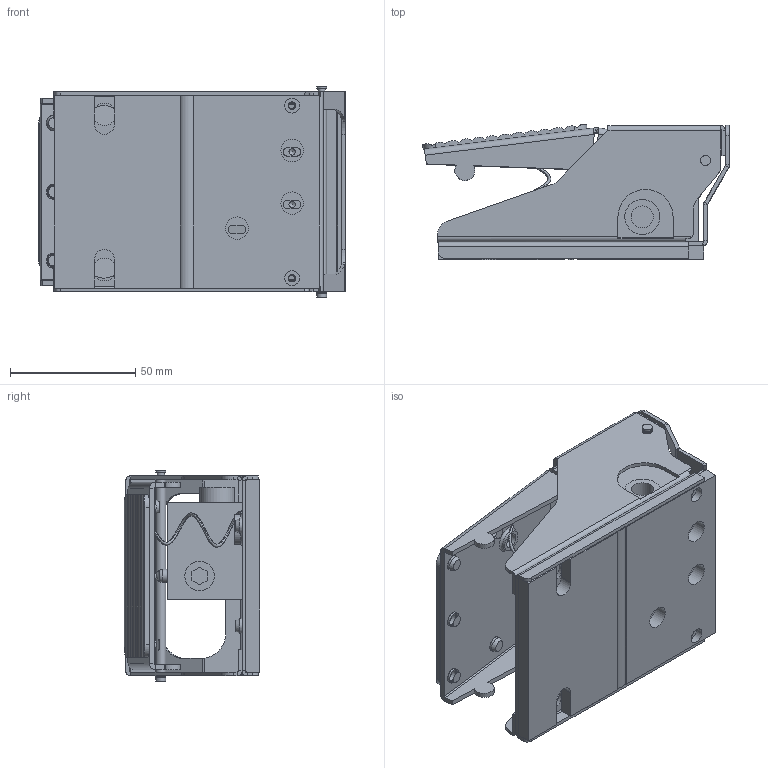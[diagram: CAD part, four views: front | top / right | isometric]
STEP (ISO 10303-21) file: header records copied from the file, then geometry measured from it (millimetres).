
FILE_DESCRIPTION(/* description */ (''),/* implementation_level */ '2;1');
FILE_NAME(/* name */ 'C:\Work_PROFILE\Inventor\84-4FV-311-14_vereinf..stp',/* time_stamp */ '2023-11-15T07:10:08+01:00',/* author */ ('Tschernatsch'),/* organization */ (''),/* preprocessor_version */ 'ST-DEVELOPER v17.2',/* originating_system */ 'Autodesk Inventor 2019',/* authorisation */ '');
FILE_SCHEMA (('AUTOMOTIVE_DESIGN { 1 0 10303 214 3 1 1 }'));
Length unit declared in the file: millimetre
Products named in the file (1): FV320_Shrinkwrap_1
Bounding box: 122.56 x 54.04 x 84 mm (x, y, z)
Volume: 153415.8 mm3; surface area: 114655.2 mm2
Topology: 9 solids, 9 shells, 491 faces, 1323 edges, 880 vertices
Faces by surface type: plane 267, cylinder 189, cone 22, bspline 8, torus 4, sphere 1
Full cylindrical faces by diameter (mm): 2.5 x10, 3 x4, 3.2 x2, 3.5 x2, 4 x7, 5 x10, 5.2 x8, 5.3 x1, 5.5 x2, 6 x13, 8.5 x1, 8.8 x1, 9 x6, 11.8 x3, 12 x1, 14 x1
Entity records: 17533 total; most frequent: CARTESIAN_POINT 3988, DIRECTION 2837, ORIENTED_EDGE 2640, EDGE_CURVE 1320, AXIS2_PLACEMENT_3D 1061, VERTEX_POINT 880, LINE 715, VECTOR 715
